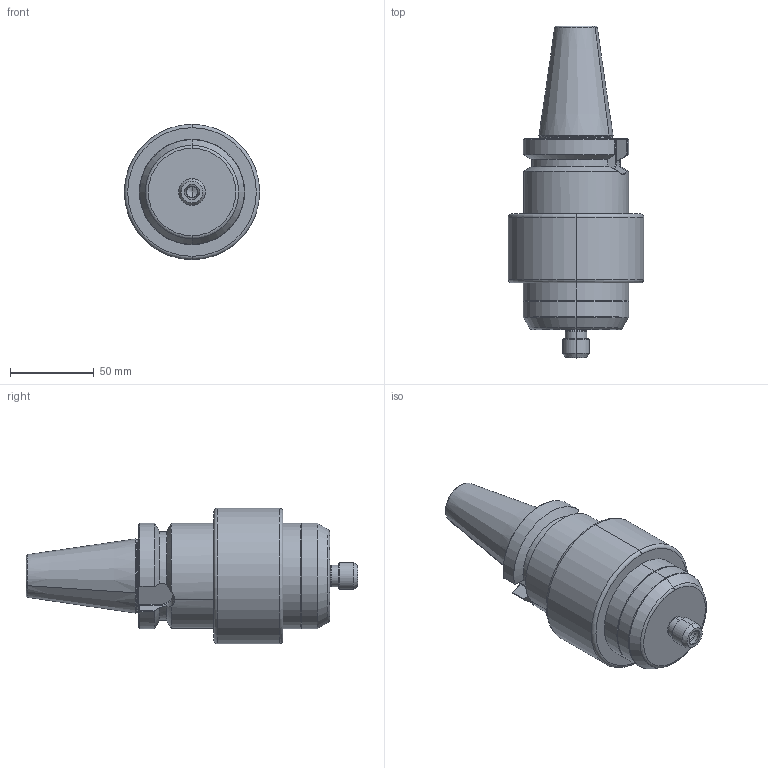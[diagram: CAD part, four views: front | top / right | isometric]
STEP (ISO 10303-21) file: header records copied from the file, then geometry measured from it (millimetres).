
FILE_DESCRIPTION (( 'STEP AP214' ), '1' );
FILE_NAME ('TJS GJET BT40 V4 - Light.STEP', '2025-11-08T13:51:34', ( 'pc' ), ( '' ), 'SwSTEP 2.0', 'SolidWorks 2024', '' );
FILE_SCHEMA (( 'AUTOMOTIVE_DESIGN' ));
Length unit declared in the file: millimetre
Products named in the file (1): TJS GJET BT40 V4 - Light
Bounding box: 81 x 198.7 x 81 mm (x, y, z)
Volume: 480961.5 mm3; surface area: 47623.6 mm2
Topology: 1 solids, 1 shells, 134 faces, 307 edges, 182 vertices
Faces by surface type: cone 42, cylinder 40, plane 29, torus 19, bspline 4
Entity records: 4481 total; most frequent: CARTESIAN_POINT 1455, DIRECTION 661, ORIENTED_EDGE 606, EDGE_CURVE 303, AXIS2_PLACEMENT_3D 271, VERTEX_POINT 182, EDGE_LOOP 145, CIRCLE 140
